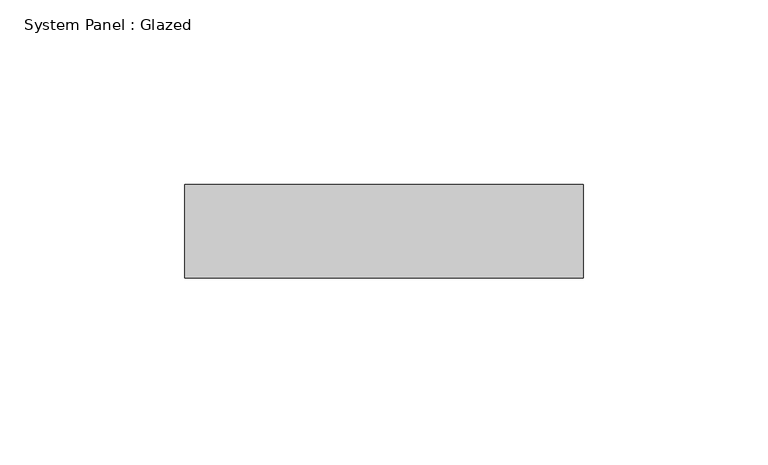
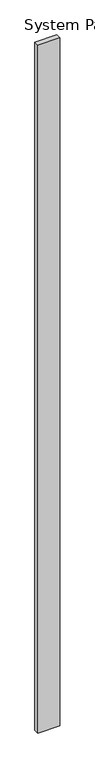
"""IFC4 building model written with IfcOpenShell, lengths in millimetres: plate geometry, System Panel : Glazed."""

from ifc_helpers import new_model, si_unit, origin, origin_with_axes, place, context, project, spatial, polyline, outline, extrude, source, transform, mapped, element, save


def system_panel_glazed_c4f410a7(model_context):
    return source(origin(), model_context, "Body", "SweptSolid", [
        extrude(outline(polyline([(53.975, 19.05), (-53.975, 19.05), (-53.975, 44.45), (53.975, 44.45), (53.975, 19.05)])), origin_with_axes(), (0.0, 0.0, 1.0), 3562.35),
    ])


if __name__ == "__main__":
    model = new_model("IFC4")
    model_context = context("Model", 3, world=origin())
    ifc_project = project(units=[si_unit("LENGTHUNIT", "METRE", prefix="MILLI")], contexts=[model_context])
    site = spatial("IfcSite", under=ifc_project)
    building = spatial("IfcBuilding", under=site)
    placement = place(None, origin())
    system_panel_glazed_shape = system_panel_glazed_c4f410a7(model_context)
    element("IfcPlate", 1, ObjectType="System Panel : Glazed", at=placement, inside=building, context=model_context, shape_type="MappedRepresentation", body=[
        mapped(system_panel_glazed_shape, transform((0.0, 0.0, 0.0), x_axis=(1.0, 0.0, 0.0), y_axis=(0.0, 1.0, 0.0), z_axis=(0.0, 0.0, 1.0))),
    ])
    save(model, "model.ifc")
